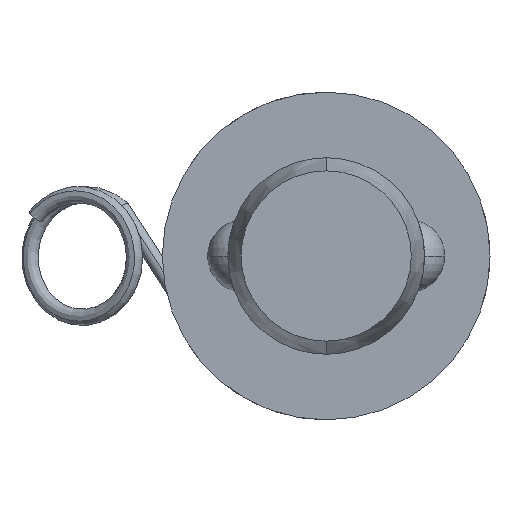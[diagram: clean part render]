
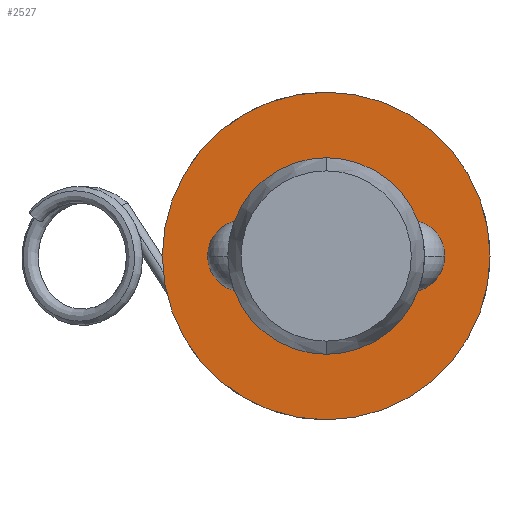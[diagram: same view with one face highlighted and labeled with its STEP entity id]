
A CAD part, left-side view. The second image highlights one B-rep face of the part: STEP entity #2527.
In plain terms, the highlighted planar face has unit normal (-1, 0, 0).
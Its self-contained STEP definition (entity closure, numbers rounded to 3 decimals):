
#130 = AXIS2_PLACEMENT_3D ( 'NONE', #208, #733, #265 ) ;
#163 = ORIENTED_EDGE ( 'NONE', *, *, #2569, .T. ) ;
#204 = CARTESIAN_POINT ( 'NONE',  ( 0., 0., 0. ) ) ;
#208 = CARTESIAN_POINT ( 'NONE',  ( 0., 0., 0. ) ) ;
#265 = DIRECTION ( 'NONE',  ( 0., 0., 1. ) ) ;
#281 = CIRCLE ( 'NONE', #3095, 6. ) ;
#332 = CIRCLE ( 'NONE', #859, 6. ) ;
#357 = EDGE_LOOP ( 'NONE', ( #2431, #3017 ) ) ;
#447 = PLANE ( 'NONE',  #2107 ) ;
#468 = DIRECTION ( 'NONE',  ( 0., 0., 1. ) ) ;
#479 = DIRECTION ( 'NONE',  ( 0., 0., -1. ) ) ;
#512 = CARTESIAN_POINT ( 'NONE',  ( 0., 0., 0. ) ) ;
#529 = ORIENTED_EDGE ( 'NONE', *, *, #1764, .T. ) ;
#733 = DIRECTION ( 'NONE',  ( -1., 0., 0. ) ) ;
#828 = CARTESIAN_POINT ( 'NONE',  ( 0., 0., -6. ) ) ;
#859 = AXIS2_PLACEMENT_3D ( 'NONE', #2769, #2020, #1544 ) ;
#975 = EDGE_LOOP ( 'NONE', ( #529, #163 ) ) ;
#1055 = VERTEX_POINT ( 'NONE', #828 ) ;
#1242 = DIRECTION ( 'NONE',  ( 0., 0., -1. ) ) ;
#1433 = EDGE_CURVE ( 'NONE', #3166, #2849, #2472, .T. ) ;
#1480 = CARTESIAN_POINT ( 'NONE',  ( 0., 0., -10. ) ) ;
#1544 = DIRECTION ( 'NONE',  ( 0., 0., -1. ) ) ;
#1584 = VERTEX_POINT ( 'NONE', #3205 ) ;
#1586 = EDGE_CURVE ( 'NONE', #2849, #3166, #1688, .T. ) ;
#1683 = FACE_BOUND ( 'NONE', #975, .T. ) ;
#1688 = CIRCLE ( 'NONE', #130, 10. ) ;
#1716 = DIRECTION ( 'NONE',  ( -1., 0., 0. ) ) ;
#1743 = DIRECTION ( 'NONE',  ( 1., 0., 0. ) ) ;
#1764 = EDGE_CURVE ( 'NONE', #1055, #1584, #332, .T. ) ;
#2020 = DIRECTION ( 'NONE',  ( 1., 0., 0. ) ) ;
#2107 = AXIS2_PLACEMENT_3D ( 'NONE', #204, #1743, #1242 ) ;
#2260 = CARTESIAN_POINT ( 'NONE',  ( 0., 0., 10. ) ) ;
#2431 = ORIENTED_EDGE ( 'NONE', *, *, #1586, .T. ) ;
#2449 = DIRECTION ( 'NONE',  ( 1., 0., 0. ) ) ;
#2472 = CIRCLE ( 'NONE', #2565, 10. ) ;
#2527 = ADVANCED_FACE ( 'NONE', ( #1683, #2679 ), #447, .F. ) ;
#2565 = AXIS2_PLACEMENT_3D ( 'NONE', #512, #1716, #468 ) ;
#2569 = EDGE_CURVE ( 'NONE', #1584, #1055, #281, .T. ) ;
#2679 = FACE_OUTER_BOUND ( 'NONE', #357, .T. ) ;
#2769 = CARTESIAN_POINT ( 'NONE',  ( 0., 0., 0. ) ) ;
#2849 = VERTEX_POINT ( 'NONE', #2260 ) ;
#2940 = CARTESIAN_POINT ( 'NONE',  ( 0., 0., 0. ) ) ;
#3017 = ORIENTED_EDGE ( 'NONE', *, *, #1433, .T. ) ;
#3095 = AXIS2_PLACEMENT_3D ( 'NONE', #2940, #2449, #479 ) ;
#3166 = VERTEX_POINT ( 'NONE', #1480 ) ;
#3205 = CARTESIAN_POINT ( 'NONE',  ( 0., 0., 6. ) ) ;
